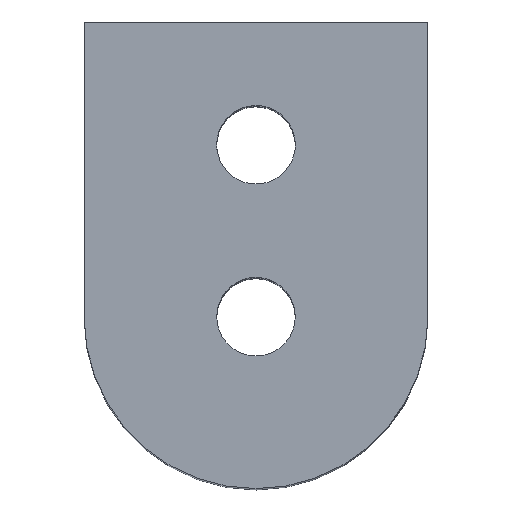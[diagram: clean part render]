
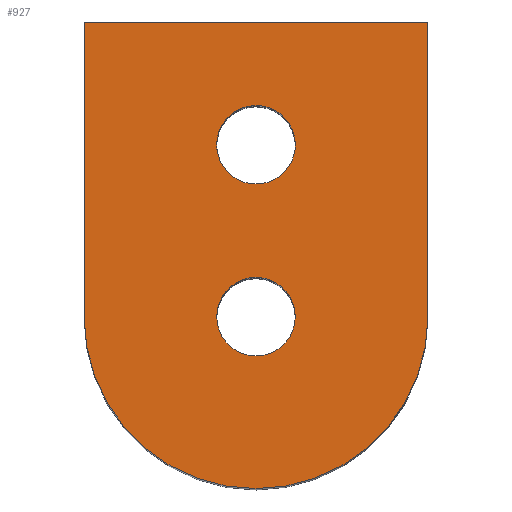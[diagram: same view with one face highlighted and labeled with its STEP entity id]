
A CAD part, top view. The second image highlights one B-rep face of the part: STEP entity #927.
In plain terms, the highlighted planar face has unit normal (0, 0, 1).
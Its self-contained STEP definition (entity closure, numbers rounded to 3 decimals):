
#33 = VERTEX_POINT('',#34);
#34 = CARTESIAN_POINT('',(208.,202.5,228.5));
#40 = EDGE_CURVE('',#33,#41,#43,.T.);
#41 = VERTEX_POINT('',#42);
#42 = CARTESIAN_POINT('',(215.,202.5,228.5));
#43 = CIRCLE('',#44,3.5);
#44 = AXIS2_PLACEMENT_3D('',#45,#46,#47);
#45 = CARTESIAN_POINT('',(211.5,202.5,228.5));
#46 = DIRECTION('',(0.,0.,1.));
#47 = DIRECTION('',(-1.,0.,0.));
#66 = VERTEX_POINT('',#67);
#67 = CARTESIAN_POINT('',(215.,208.5,228.5));
#80 = EDGE_CURVE('',#66,#41,#81,.T.);
#81 = LINE('',#82,#83);
#82 = CARTESIAN_POINT('',(215.,208.5,228.5));
#83 = VECTOR('',#84,1.);
#84 = DIRECTION('',(0.,-1.,0.));
#97 = VERTEX_POINT('',#98);
#98 = CARTESIAN_POINT('',(208.,208.5,228.5));
#111 = EDGE_CURVE('',#97,#33,#112,.T.);
#112 = LINE('',#113,#114);
#113 = CARTESIAN_POINT('',(208.,208.5,228.5));
#114 = VECTOR('',#115,1.);
#115 = DIRECTION('',(0.,-1.,0.));
#132 = EDGE_CURVE('',#66,#97,#133,.T.);
#133 = LINE('',#134,#135);
#134 = CARTESIAN_POINT('',(215.,208.5,228.5));
#135 = VECTOR('',#136,1.);
#136 = DIRECTION('',(-1.,0.,0.));
#927 = ADVANCED_FACE('',(#928,#934,#963),#992,.T.);
#928 = FACE_BOUND('',#929,.T.);
#929 = EDGE_LOOP('',(#930,#931,#932,#933));
#930 = ORIENTED_EDGE('',*,*,#40,.T.);
#931 = ORIENTED_EDGE('',*,*,#80,.F.);
#932 = ORIENTED_EDGE('',*,*,#132,.T.);
#933 = ORIENTED_EDGE('',*,*,#111,.T.);
#934 = FACE_BOUND('',#935,.T.);
#935 = EDGE_LOOP('',(#936,#947,#956));
#936 = ORIENTED_EDGE('',*,*,#937,.F.);
#937 = EDGE_CURVE('',#938,#940,#942,.T.);
#938 = VERTEX_POINT('',#939);
#939 = CARTESIAN_POINT('',(210.7,202.5,228.5));
#940 = VERTEX_POINT('',#941);
#941 = CARTESIAN_POINT('',(212.3,202.5,228.5));
#942 = CIRCLE('',#943,0.8);
#943 = AXIS2_PLACEMENT_3D('',#944,#945,#946);
#944 = CARTESIAN_POINT('',(211.5,202.5,228.5));
#945 = DIRECTION('',(0.,0.,1.));
#946 = DIRECTION('',(-1.,0.,0.));
#947 = ORIENTED_EDGE('',*,*,#948,.F.);
#948 = EDGE_CURVE('',#949,#938,#951,.T.);
#949 = VERTEX_POINT('',#950);
#950 = CARTESIAN_POINT('',(210.7,202.5,228.5));
#951 = CIRCLE('',#952,0.8);
#952 = AXIS2_PLACEMENT_3D('',#953,#954,#955);
#953 = CARTESIAN_POINT('',(211.5,202.5,228.5));
#954 = DIRECTION('',(0.,0.,1.));
#955 = DIRECTION('',(-1.,0.,0.));
#956 = ORIENTED_EDGE('',*,*,#957,.F.);
#957 = EDGE_CURVE('',#940,#949,#958,.T.);
#958 = CIRCLE('',#959,0.8);
#959 = AXIS2_PLACEMENT_3D('',#960,#961,#962);
#960 = CARTESIAN_POINT('',(211.5,202.5,228.5));
#961 = DIRECTION('',(0.,0.,1.));
#962 = DIRECTION('',(-1.,0.,0.));
#963 = FACE_BOUND('',#964,.T.);
#964 = EDGE_LOOP('',(#965,#976,#985));
#965 = ORIENTED_EDGE('',*,*,#966,.F.);
#966 = EDGE_CURVE('',#967,#969,#971,.T.);
#967 = VERTEX_POINT('',#968);
#968 = CARTESIAN_POINT('',(210.705,205.909,228.5));
#969 = VERTEX_POINT('',#970);
#970 = CARTESIAN_POINT('',(212.295,205.909,228.5));
#971 = CIRCLE('',#972,0.8);
#972 = AXIS2_PLACEMENT_3D('',#973,#974,#975);
#973 = CARTESIAN_POINT('',(211.5,206.,228.5));
#974 = DIRECTION('',(0.,0.,1.));
#975 = DIRECTION('',(-1.,0.,0.));
#976 = ORIENTED_EDGE('',*,*,#977,.F.);
#977 = EDGE_CURVE('',#978,#967,#980,.T.);
#978 = VERTEX_POINT('',#979);
#979 = CARTESIAN_POINT('',(210.7,206.,228.5));
#980 = CIRCLE('',#981,0.8);
#981 = AXIS2_PLACEMENT_3D('',#982,#983,#984);
#982 = CARTESIAN_POINT('',(211.5,206.,228.5));
#983 = DIRECTION('',(0.,0.,1.));
#984 = DIRECTION('',(-1.,0.,0.));
#985 = ORIENTED_EDGE('',*,*,#986,.F.);
#986 = EDGE_CURVE('',#969,#978,#987,.T.);
#987 = CIRCLE('',#988,0.8);
#988 = AXIS2_PLACEMENT_3D('',#989,#990,#991);
#989 = CARTESIAN_POINT('',(211.5,206.,228.5));
#990 = DIRECTION('',(0.,0.,1.));
#991 = DIRECTION('',(-1.,0.,0.));
#992 = PLANE('',#993);
#993 = AXIS2_PLACEMENT_3D('',#994,#995,#996);
#994 = CARTESIAN_POINT('',(211.5,204.425,228.5));
#995 = DIRECTION('',(0.,0.,1.));
#996 = DIRECTION('',(1.,0.,-0.));
